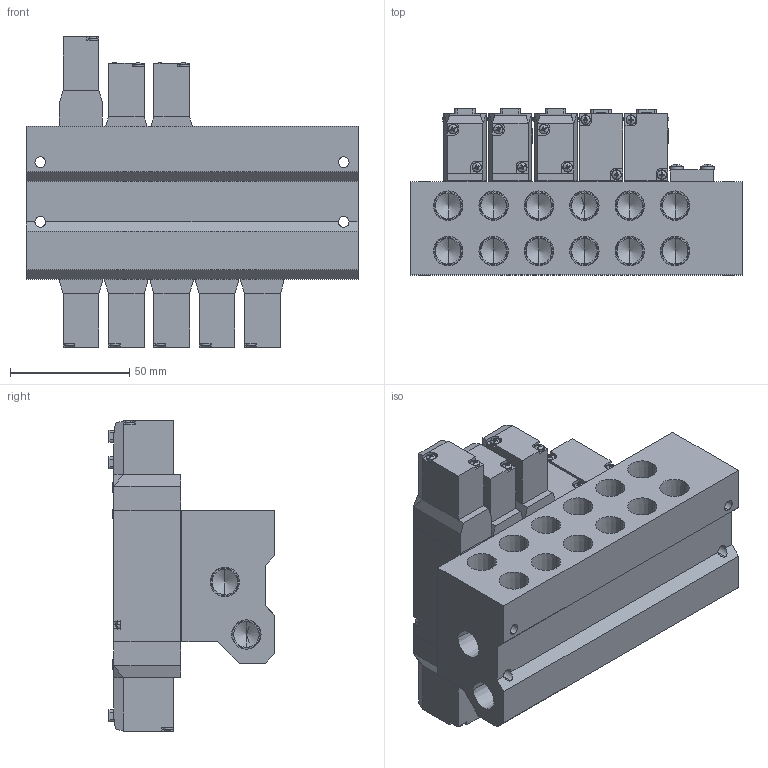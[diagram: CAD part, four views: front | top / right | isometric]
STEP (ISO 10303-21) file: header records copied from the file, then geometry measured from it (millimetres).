
FILE_DESCRIPTION (( 'STEP AP203' ), '1' );
FILE_NAME ('MFS#-PS13-02-L.STEP', '2016-02-04T03:34:49', ( 'Sam Lin' ), ( '' ), 'SwSTEP 2.0', 'SolidWorks 2013', '' );
FILE_SCHEMA (( 'CONFIG_CONTROL_DESIGN' ));
Length unit declared in the file: metre
Products named in the file (14): PC13-MARK; ISO 7045 - M2 x 10; PC13-3-B; PC13-6; PC13-3; PC5-6; PC13-2; PC13-10-盲板; 承頭; MFS-PS13-02; MFS#-PS13-02-L; PC13-4-墊片; ISO 7045 - M3 x 20; PC13-5
Assembly tree (77 placements, depth 2):
  MFS#-PS13-02-L
    MFS-PS13-02
    PC13-4-墊片  x5
    PC13-5  x8
    ISO 7045 - M2 x 10  x20
    PC13-6  x8
    PC5-6  x8
    ISO 7045 - M3 x 20  x12
    PC13-MARK  x5
    PC13-3-B
    PC13-3  x4
    PC13-2  x2
    PC13-10-盲板
    承頭  x2
Bounding box: 139 x 69.5 x 130.14 mm (x, y, z)
Volume: 533095 mm3; surface area: 137492.1 mm2
Topology: 107 solids, 107 shells, 2630 faces, 6386 edges, 3958 vertices
Faces by surface type: plane 1496, cylinder 478, cone 420, bspline 236
Entity records: 16898 total; most frequent: CARTESIAN_POINT 2912, DIRECTION 2344, ORIENTED_EDGE 2132, EDGE_CURVE 1066, AXIS2_PLACEMENT_3D 858, VERTEX_POINT 690, LINE 628, VECTOR 628
